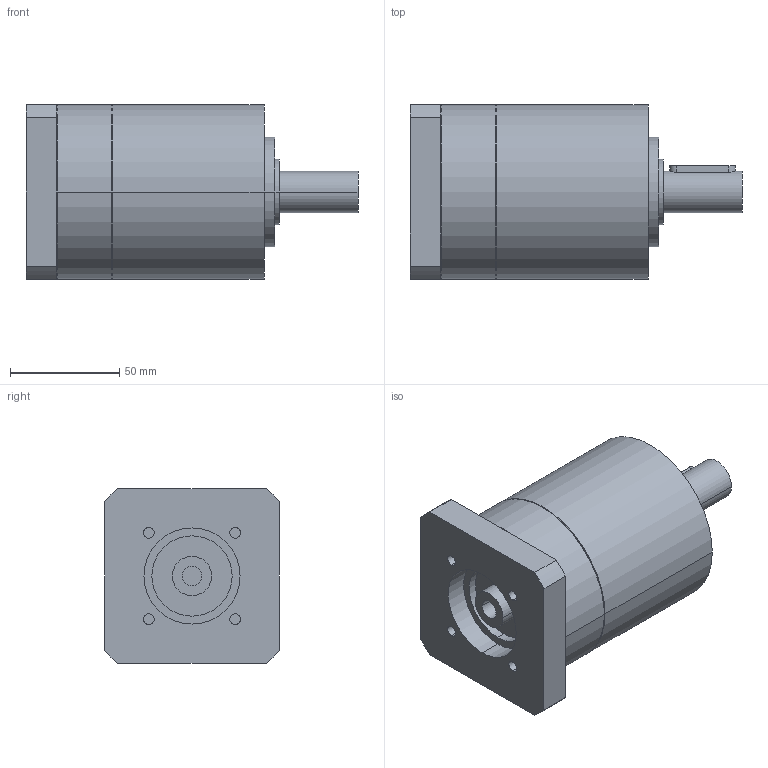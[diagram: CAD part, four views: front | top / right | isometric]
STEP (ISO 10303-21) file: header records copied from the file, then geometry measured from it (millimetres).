
FILE_DESCRIPTION(('CoCreate Modeling STEP Export'),'2;1');
FILE_NAME('GPR100_ig-3-4-5-6_19_B14_9_P31.stp','2014-08-26T10:53:21',(''),(''),'CoCreate Modeling STEP processor for AP214 (Solid Model)','CoCreate Modeling 16.00C 25-Feb-2009 (C) Parametric Technology GmbH','');
FILE_SCHEMA(('AUTOMOTIVE_DESIGN { 1 0 10303 214 1 1 1 1 }'));
Length unit declared in the file: millimetre
Products named in the file (2): GPR100_ig-3-4-5-6_19_B14_9_P31
Assembly tree (1 placements, depth 2):
  GPR100_ig-3-4-5-6_19_B14_9_P31
    GPR100_ig-3-4-5-6_19_B14_9_P31
Bounding box: 152 x 80 x 80 mm (x, y, z)
Volume: 565823.2 mm3; surface area: 49987.4 mm2
Topology: 1 solids, 1 shells, 74 faces, 187 edges, 131 vertices
Faces by surface type: cylinder 42, plane 26, cone 6
Entity records: 1943 total; most frequent: ORIENTED_EDGE 370, CARTESIAN_POINT 360, DIRECTION 264, EDGE_CURVE 185, VERTEX_POINT 131, AXIS2_PLACEMENT_3D 99, EDGE_LOOP 92, FACE_OUTER_BOUND 74
